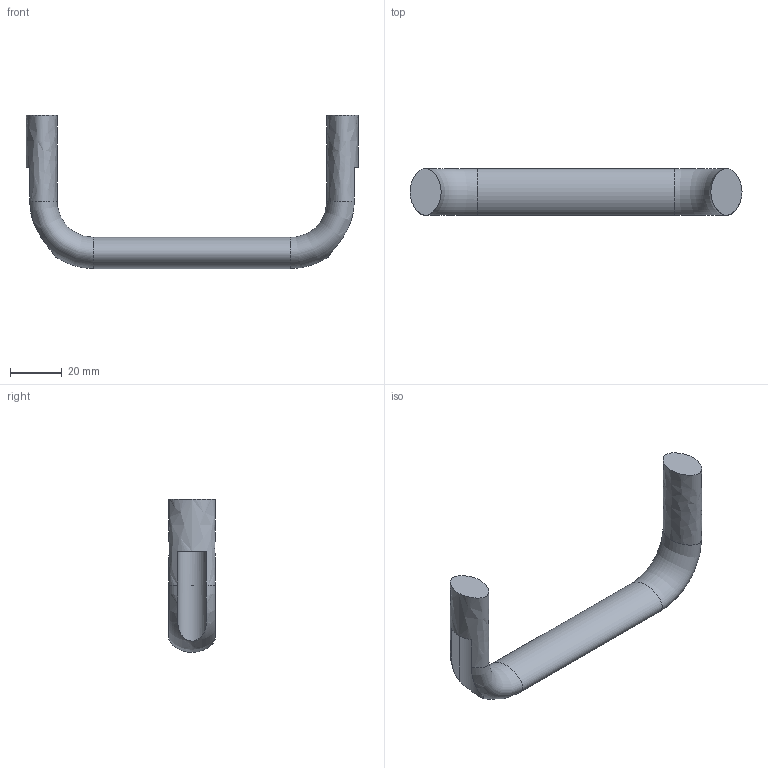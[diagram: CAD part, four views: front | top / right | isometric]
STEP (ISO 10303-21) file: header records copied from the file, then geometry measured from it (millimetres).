
FILE_DESCRIPTION(/* description */ ('Alibre Inc.'),/* implementation_level */ '2;1');
FILE_NAME(/* name */ 'export0',/* time_stamp */ '2007-02-22T09:14:43+01:00',/* author */ (''),/* organization */ (''),/* preprocessor_version */ 'ST-DEVELOPER v10',/* originating_system */ 'Alibre',/* authorisation */ '');
FILE_SCHEMA (('AUTOMOTIVE_DESIGN'));
Length unit declared in the file: centimetre
Bounding box: 128 x 18 x 59 mm (x, y, z)
Volume: 28147.1 mm3; surface area: 10856.8 mm2
Topology: 1 solids, 1 shells, 15 faces, 37 edges, 24 vertices
Faces by surface type: plane 8, bspline 3, cylinder 2, revolution 2
Entity records: 577 total; most frequent: CARTESIAN_POINT 248, ORIENTED_EDGE 74, DIRECTION 41, EDGE_CURVE 37, VERTEX_POINT 24, B_SPLINE_CURVE_WITH_KNOTS 20, AXIS2_PLACEMENT_3D 18, EDGE_LOOP 15
